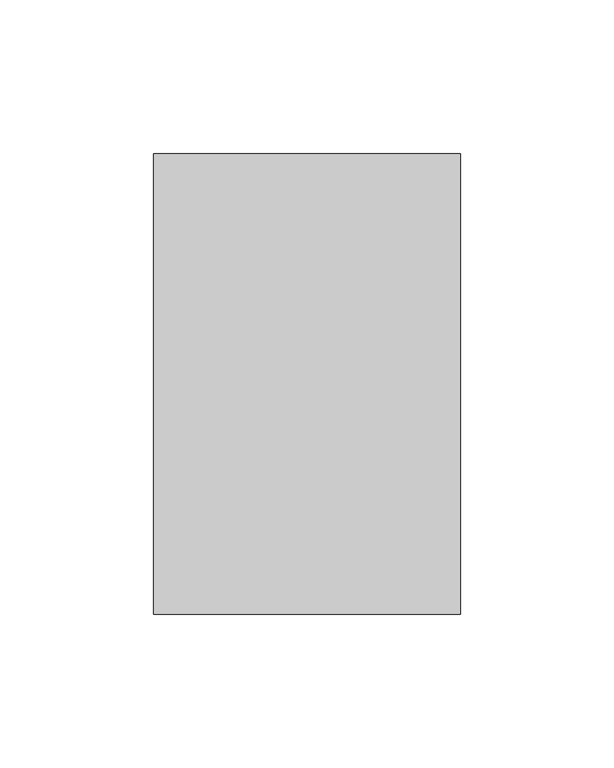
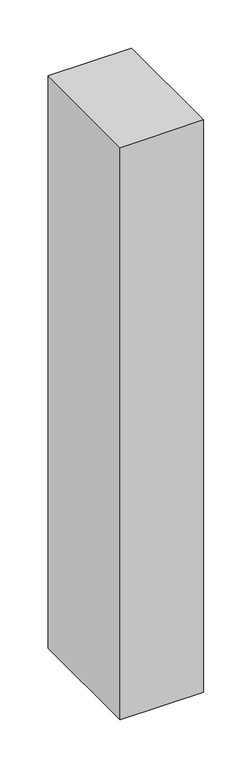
"""IFC4 building model written with IfcOpenShell, lengths in millimetres: member geometry, 矩形竖梃 : 教学楼 – 矩形竖梃 – 100x150mm."""

from ifc_helpers import new_model, si_unit, frame, origin, place, context, project, spatial, polyline, outline, extrude, source, transform, mapped, element, save


def member_bb6b3e5c(model_context):
    return source(origin(), model_context, "Body", "SweptSolid", [
        extrude(outline(polyline([(0.0, 75.0), (0.0, -75.0), (-100.0, -75.0), (-100.0, 75.0), (0.0, 75.0)])), frame((0.0, 0.0, -725.0), z_axis=(0.0, 0.0, 1.0), x_axis=(1.0, 0.0, 0.0)), (0.0, 0.0, 1.0), 725.0),
    ])


if __name__ == "__main__":
    model = new_model("IFC4")
    model_context = context("Model", 3, world=origin())
    ifc_project = project(units=[si_unit("LENGTHUNIT", "METRE", prefix="MILLI")], contexts=[model_context])
    site = spatial("IfcSite", under=ifc_project)
    building = spatial("IfcBuilding", under=site)
    placement = place(None, origin())
    member_shape = member_bb6b3e5c(model_context)
    element("IfcMember", 1, ObjectType="矩形竖梃 : 教学楼 – 矩形竖梃 – 100x150mm", at=placement, inside=building, context=model_context, shape_type="MappedRepresentation", body=[
        mapped(member_shape, transform((0.0, 0.0, 0.0), x_axis=(1.0, 0.0, 0.0), y_axis=(0.0, 1.0, 0.0), z_axis=(0.0, 0.0, 1.0))),
    ])
    save(model, "model.ifc")
